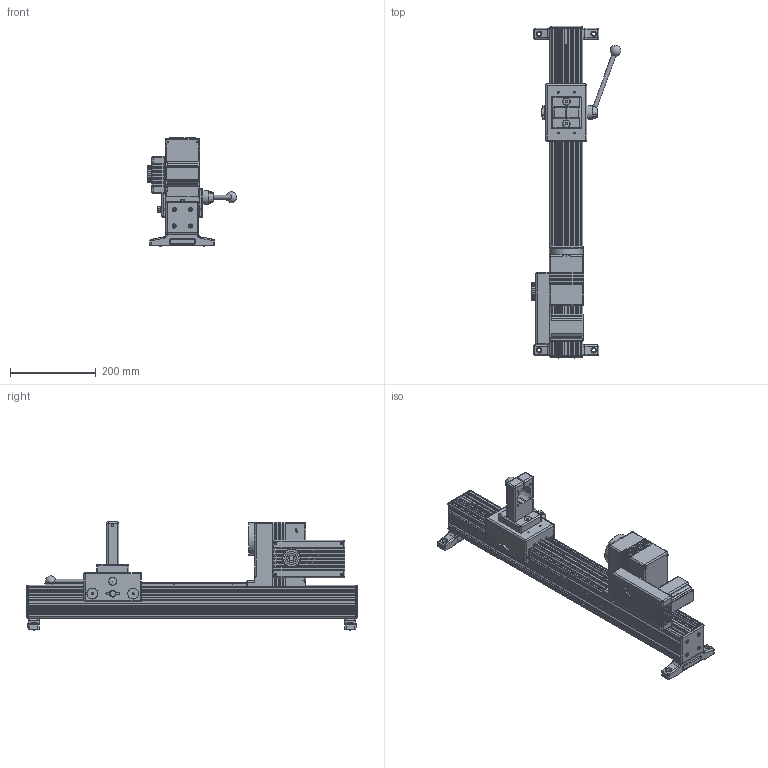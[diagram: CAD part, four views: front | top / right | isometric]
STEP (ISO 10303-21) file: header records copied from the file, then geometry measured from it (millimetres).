
FILE_DESCRIPTION(/* description */ (''),/* implementation_level */ '2;1');
FILE_NAME(/* name */ 'F:\CAD files\Itr\3D MARKETING MODELS\MOTORIZED TEST STANDS\TSTMH\TSTMH.stp',/* time_stamp */ '2020-04-30T16:37:33-04:00',/* author */ ('dsollitt'),/* organization */ (''),/* preprocessor_version */ 'ST-DEVELOPER v18',/* originating_system */ 'AutoCAD Mechanical',/* authorisation */ '');
FILE_SCHEMA (('AUTOMOTIVE_DESIGN { 1 0 10303 214 3 1 1 }'));
Products named in the file (1): Product
Bounding box: 208.92 x 772.59 x 251.78 mm (x, y, z)
Volume: 6377955.6 mm3; surface area: 899002.9 mm2
Topology: 10 solids, 17 shells, 3220 faces, 8777 edges, 5769 vertices
Faces by surface type: plane 1987, cylinder 734, cone 268, bspline 169, sphere 43, torus 19
Full cylindrical faces by diameter (mm): 1 x27, 2.388 x1, 2.845 x9, 3.052 x8, 3.175 x5, 3.251 x8, 3.505 x8, 3.861 x4, 4.064 x4, 4.166 x4, 4.762 x5, 4.768 x1, 4.826 x28, 5.08 x4, 5.105 x1, 5.156 x4, 5.41 x7, 6.35 x8, 6.553 x4, 8.106 x8, 8.382 x4, 8.636 x4, 8.738 x4, 9.525 x8, 9.987 x1, 10.033 x2, 10.16 x4, 10.541 x1, 11.125 x1, 12.7 x8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
Entity records: 110628 total; most frequent: CARTESIAN_POINT 28585, ORIENTED_EDGE 17484, DIRECTION 16679, EDGE_CURVE 8742, VERTEX_POINT 5761, LINE 5733, VECTOR 5733, AXIS2_PLACEMENT_3D 5473
